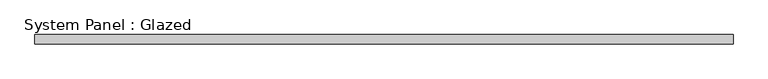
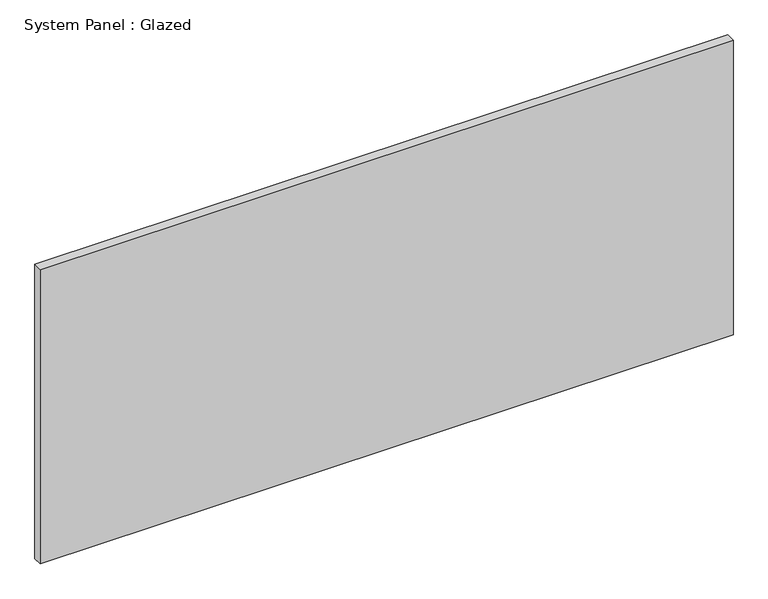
"""IFC4 building model written with IfcOpenShell, lengths in millimetres: plate geometry, System Panel : Glazed."""

from ifc_helpers import new_model, si_unit, origin, origin_with_axes, place, context, project, spatial, polyline, outline, extrude, source, transform, mapped, element, save


def system_panel_glazed_9419342d(model_context):
    return source(origin(), model_context, "Body", "SweptSolid", [
        extrude(outline(polyline([(968.375, 19.05), (-968.375, 19.05), (-968.375, 44.45), (968.375, 44.45), (968.375, 19.05)])), origin_with_axes(), (0.0, 0.0, 1.0), 869.95),
    ])


if __name__ == "__main__":
    model = new_model("IFC4")
    model_context = context("Model", 3, world=origin())
    ifc_project = project(units=[si_unit("LENGTHUNIT", "METRE", prefix="MILLI")], contexts=[model_context])
    site = spatial("IfcSite", under=ifc_project)
    building = spatial("IfcBuilding", under=site)
    placement = place(None, origin())
    system_panel_glazed_shape = system_panel_glazed_9419342d(model_context)
    element("IfcPlate", 1, ObjectType="System Panel : Glazed", at=placement, inside=building, context=model_context, shape_type="MappedRepresentation", body=[
        mapped(system_panel_glazed_shape, transform((0.0, 0.0, 0.0), x_axis=(1.0, 0.0, 0.0), y_axis=(0.0, 1.0, 0.0), z_axis=(0.0, 0.0, 1.0))),
    ])
    save(model, "model.ifc")
